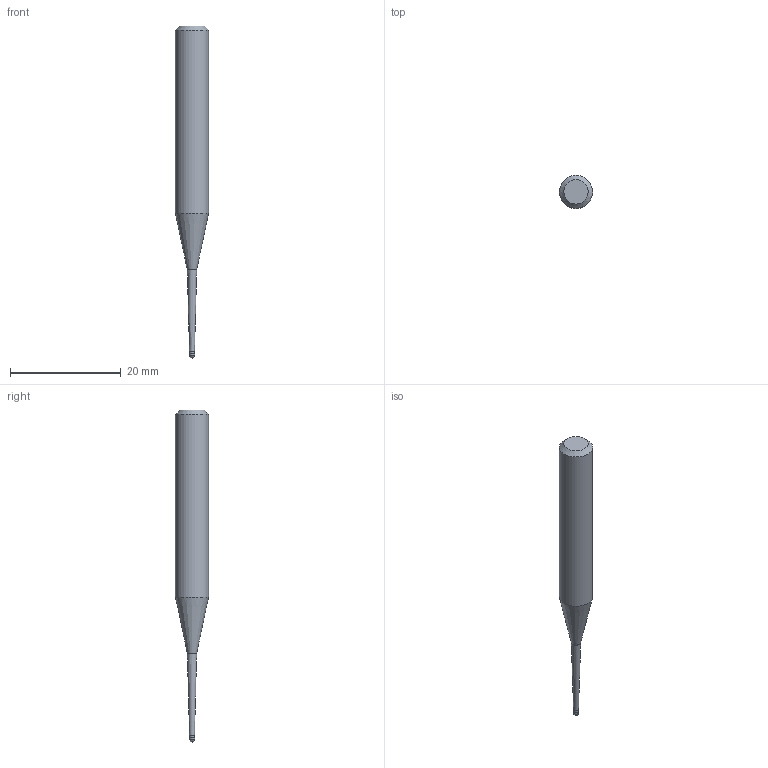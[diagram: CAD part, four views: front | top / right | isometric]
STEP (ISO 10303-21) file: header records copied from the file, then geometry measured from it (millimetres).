
FILE_DESCRIPTION((''),'2;1');
FILE_NAME('C:\Users\nsx150\AppData\Local\Temp\Mastercam 2021\E0ENTZRV18\TEMP.step','2021-09-02T09:56:09',(''),(''),'STEP Write','Mastercam 2021 ... CNC Software, Inc.','');
FILE_SCHEMA(('AUTOMOTIVE_DESIGN'));
Length unit declared in the file: millimetre
Products named in the file (1): None
Bounding box: 6 x 6 x 60 mm (x, y, z)
Volume: 1102.8 mm3; surface area: 847.4 mm2
Topology: 2 solids, 2 shells, 10 faces, 16 edges, 9 vertices
Faces by surface type: plane 3, cylinder 3, cone 3, sphere 1
Full cylindrical faces by diameter (mm): 0.905 x1, 1 x1, 6 x1
Entity records: 232 total; most frequent: DIRECTION 40, CARTESIAN_POINT 28, AXIS2_PLACEMENT_3D 20, ORIENTED_EDGE 16, EDGE_LOOP 16, STYLED_ITEM 13, ADVANCED_FACE 10, FACE_BOUND 9
